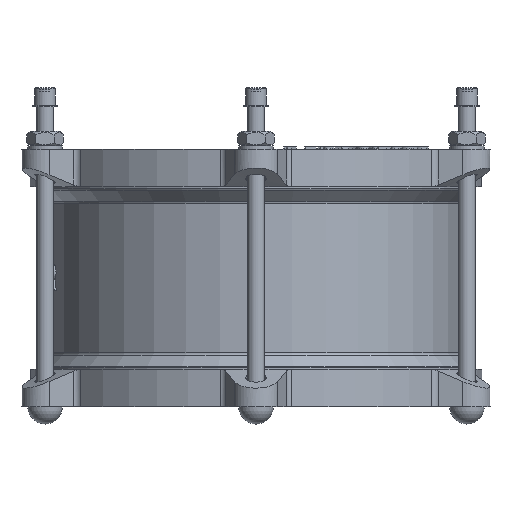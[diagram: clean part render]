
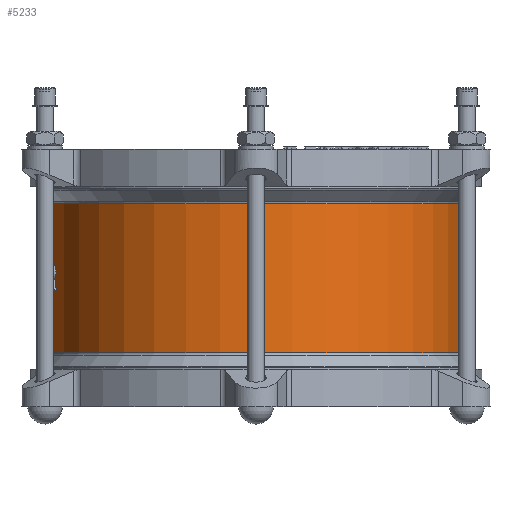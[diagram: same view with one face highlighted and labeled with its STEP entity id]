
A CAD part, left-side view. The second image highlights one B-rep face of the part: STEP entity #5233.
In plain terms, the highlighted cylindrical face has radius 142 mm (diameter 284 mm), a full revolution.
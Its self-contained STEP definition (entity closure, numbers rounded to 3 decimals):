
#5233=ADVANCED_FACE('',(#9787,#9789),#9791,.T.);
#9787=FACE_OUTER_BOUND('',#9788,.T.);
#9788=EDGE_LOOP('',(#14475));
#9789=FACE_OUTER_BOUND('',#9790,.T.);
#9790=EDGE_LOOP('',(#14476));
#9791=CYLINDRICAL_SURFACE('',#9792,142.);
#9792=AXIS2_PLACEMENT_3D('',#9793,#9794,#9795);
#9793=CARTESIAN_POINT('',(0.,0.,52.714));
#9794=DIRECTION('',(0.,0.,-1.));
#9795=DIRECTION('',(0.,1.,0.));
#14475=ORIENTED_EDGE('',*,*,#16526,.T.);
#14476=ORIENTED_EDGE('',*,*,#16527,.F.);
#16526=EDGE_CURVE('',#19293,#19293,#19294,.T.);
#16527=EDGE_CURVE('',#19295,#19295,#19296,.T.);
#19293=VERTEX_POINT('',#28927);
#19294=CIRCLE('',#28928,142.);
#19295=VERTEX_POINT('',#28932);
#19296=CIRCLE('',#28933,142.);
#28927=CARTESIAN_POINT('',(0.,142.,51.679));
#28928=AXIS2_PLACEMENT_3D('',#28929,#28930,#28931);
#28929=CARTESIAN_POINT('',(0.,0.,51.679));
#28930=DIRECTION('',(0.,0.,-1.));
#28931=DIRECTION('',(0.,1.,0.));
#28932=CARTESIAN_POINT('',(0.,142.,-51.679));
#28933=AXIS2_PLACEMENT_3D('',#28934,#28935,#28936);
#28934=CARTESIAN_POINT('',(0.,0.,-51.679));
#28935=DIRECTION('',(0.,0.,-1.));
#28936=DIRECTION('',(0.,1.,0.));
